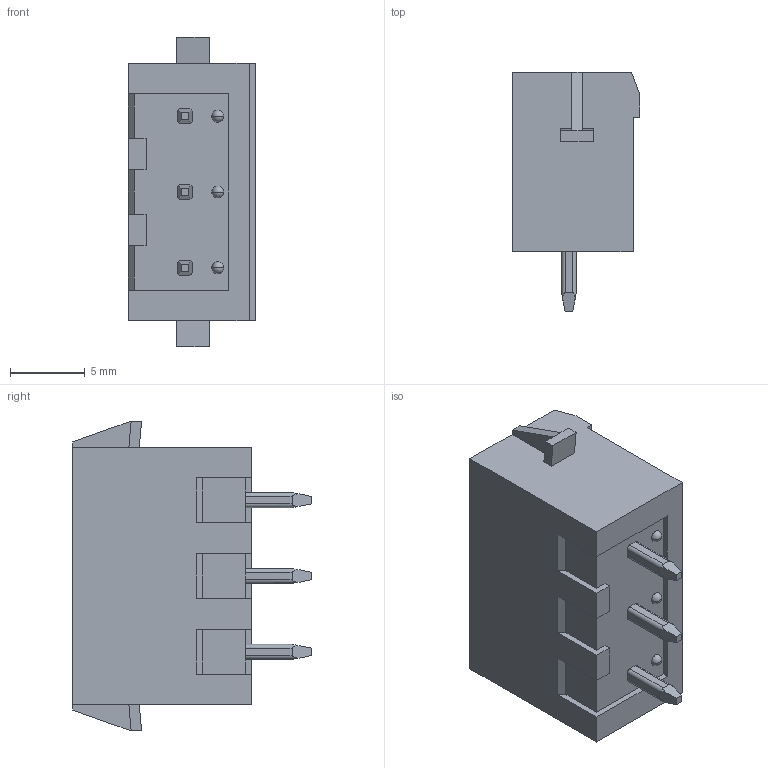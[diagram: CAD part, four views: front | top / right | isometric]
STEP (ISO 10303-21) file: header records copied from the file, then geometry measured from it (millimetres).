
FILE_DESCRIPTION((''),'2;1');
FILE_NAME('333','2019-04-09T',('zhenbing.lai'),(''),'CREO PARAMETRIC BY PTC INC, 2016260','CREO PARAMETRIC BY PTC INC, 2016260','');
FILE_SCHEMA(('CONFIG_CONTROL_DESIGN'));
Length unit declared in the file: millimetre
Products named in the file (1): 333
Bounding box: 8.55 x 16 x 20.76 mm (x, y, z)
Volume: 1029.9 mm3; surface area: 1336.3 mm2
Topology: 1 solids, 1 shells, 175 faces, 477 edges, 307 vertices
Faces by surface type: plane 131, cylinder 31, cone 7, sphere 6
Entity records: 5632 total; most frequent: CARTESIAN_POINT 1261, ORIENTED_EDGE 942, DIRECTION 824, EDGE_CURVE 471, VECTOR 360, LINE 360, VERTEX_POINT 307, AXIS2_PLACEMENT_3D 232
